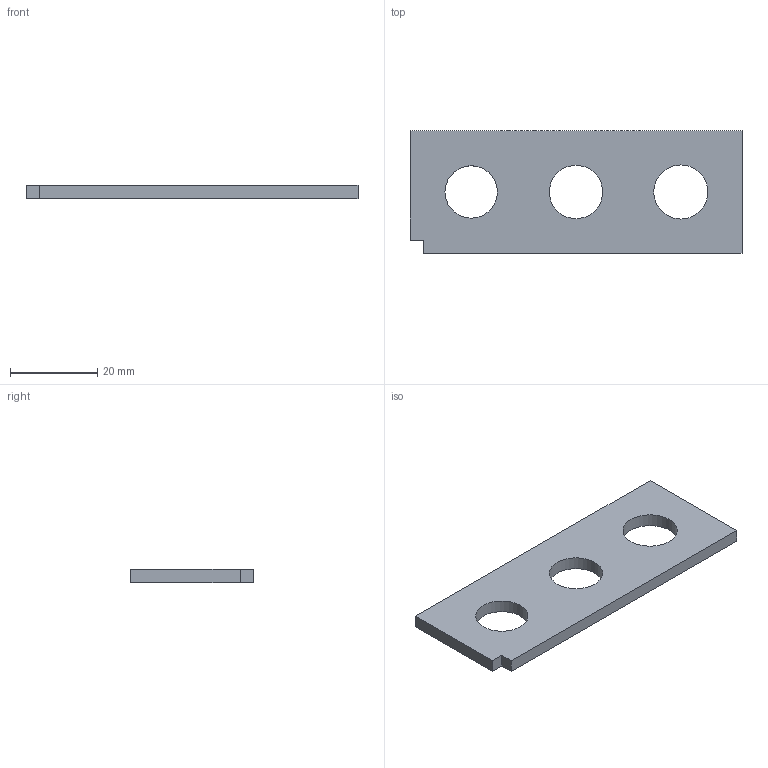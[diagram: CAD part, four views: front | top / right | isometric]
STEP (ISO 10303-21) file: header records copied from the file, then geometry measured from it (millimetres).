
FILE_DESCRIPTION(('Open CASCADE Model'),'2;1');
FILE_NAME('Open CASCADE Shape Model','2026-09-13T21:36:11',('Author'),( 'Open CASCADE'),'Open CASCADE STEP processor 7.9','Open CASCADE 7.9' ,'Unknown');
FILE_SCHEMA(('AUTOMOTIVE_DESIGN { 1 0 10303 214 1 1 1 1 }'));
Length unit declared in the file: millimetre
Products named in the file (1): Open CASCADE STEP translator 7.9 8
Bounding box: 76 x 28 x 3 mm (x, y, z)
Volume: 5304.7 mm3; surface area: 4505.4 mm2
Topology: 1 solids, 1 shells, 11 faces, 27 edges, 18 vertices
Faces by surface type: plane 8, cylinder 3
Full cylindrical faces by diameter (mm): 12 x1, 12.2 x1, 12.4 x1
Entity records: 688 total; most frequent: CARTESIAN_POINT 123, DIRECTION 99, LINE 57, VECTOR 57, ORIENTED_EDGE 54, PCURVE 54, DEFINITIONAL_REPRESENTATION 54, EDGE_CURVE 27
